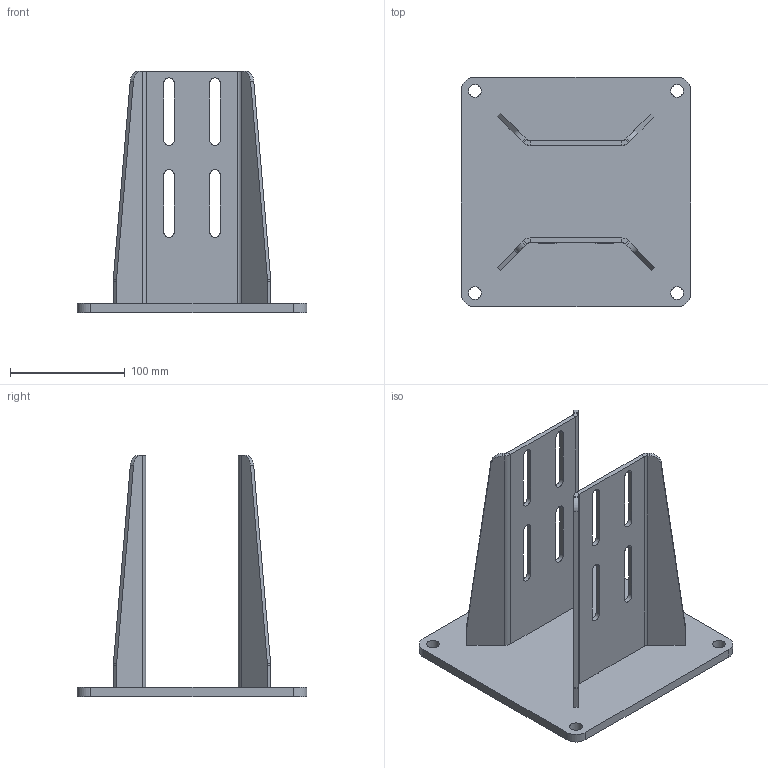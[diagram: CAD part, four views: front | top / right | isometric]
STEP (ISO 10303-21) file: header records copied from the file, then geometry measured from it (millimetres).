
FILE_DESCRIPTION(/* description */ ('FOOT FOR PROFILE 500-1030'),/* implementation_level */ '2;1');
FILE_NAME(/* name */ '500-1131.stp',/* time_stamp */ '2022-09-16T08:16:10+02:00',/* author */ ('PL'),/* organization */ ('CARRYLINE'),/* preprocessor_version */ 'ST-DEVELOPER v19.2',/* originating_system */ 'Autodesk Inventor 2023',/* authorisation */ '');
FILE_SCHEMA (('AUTOMOTIVE_DESIGN { 1 0 10303 214 3 1 1 }'));
Length unit declared in the file: millimetre
Products named in the file (3): 500-1131; 16757_2; 16757_1
Assembly tree (3 placements, depth 2):
  500-1131
    16757_1  x2
    16757_2
Bounding box: 200 x 200 x 210 mm (x, y, z)
Volume: 515991.8 mm3; surface area: 199721.5 mm2
Topology: 3 solids, 3 shells, 158 faces, 424 edges, 272 vertices
Faces by surface type: plane 118, cylinder 40
Full cylindrical faces by diameter (mm): 11 x4
Entity records: 3361 total; most frequent: CARTESIAN_POINT 566, ORIENTED_EDGE 556, DIRECTION 542, EDGE_CURVE 278, LINE 230, VECTOR 230, VERTEX_POINT 180, AXIS2_PLACEMENT_3D 156
